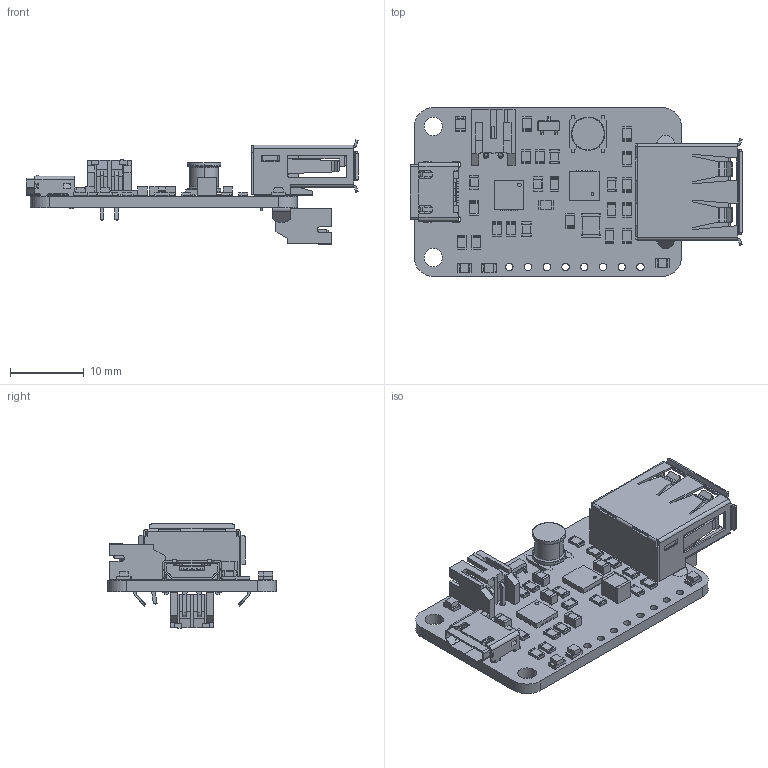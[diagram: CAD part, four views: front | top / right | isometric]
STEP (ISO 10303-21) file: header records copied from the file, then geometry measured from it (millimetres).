
FILE_DESCRIPTION(('KiCad electronic assembly'),'2;1');
FILE_NAME('Adafruit-PowerBoost-1000C.step','2021-06-19T00:24:23',( 'Pcbnew'),('Kicad'),'Open CASCADE STEP processor 7.5', 'KiCad to STEP converter','Unknown');
FILE_SCHEMA(('AUTOMOTIVE_DESIGN { 1 0 10303 214 1 1 1 1 }'));
Length unit declared in the file: millimetre
Products named in the file (24): Adafruit-PowerBoost-1000C 1; C_0805_2012Metric; SOLID; User Library-Inductor VLC5045 Series; LED_0805_2012Metric; R_0805_2012Metric; JST_PH_S2B-PH-K_1x02_P2.00mm_Horizontal; C_1210_3225Metric; Texas_S-PVQFN-N16_EP2.7x2.7mm; femaleThruHoleUSB; SOT-23; QFN-20-1EP_4x4mm_P0.5mm_EP2.5x2.5mm; 629105150521; COMPOUND
Assembly tree (48 placements, depth 3):
  Adafruit-PowerBoost-1000C 1
    C_0805_2012Metric  x5
      SOLID
    User Library-Inductor VLC5045 Series
      SOLID
    LED_0805_2012Metric  x4
      SOLID
    R_0805_2012Metric  x18
      SOLID
    JST_PH_S2B-PH-K_1x02_P2.00mm_Horizontal  x2
      SOLID
    C_1210_3225Metric
      SOLID
    Texas_S-PVQFN-N16_EP2.7x2.7mm
      SOLID
    femaleThruHoleUSB
      SOLID
    SOT-23
      SOLID
    QFN-20-1EP_4x4mm_P0.5mm_EP2.5x2.5mm
      SOLID
    629105150521
      COMPOUND
    COMPOUND
Bounding box: 45.03 x 22.9 x 14.11 mm (x, y, z)
Volume: 2406.9 mm3; surface area: 5358.7 mm2
Topology: 44 solids, 44 shells, 2494 faces, 6906 edges, 4483 vertices
Faces by surface type: bspline 2428, cylinder 52, plane 14
Full cylindrical faces by diameter (mm): 0.2 x9, 0.3 x9, 0.75 x4, 0.8 x2, 0.92 x4, 1 x8, 2.3 x2, 2.5 x2
Entity records: 115260 total; most frequent: CARTESIAN_POINT 43531, B_SPLINE_CURVE_WITH_KNOTS 12061, ORIENTED_EDGE 9494, PCURVE 9494, DEFINITIONAL_REPRESENTATION 9494, EDGE_CURVE 4747, SURFACE_CURVE 4701, VERTEX_POINT 3081
